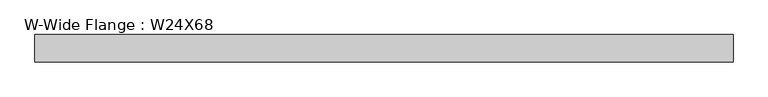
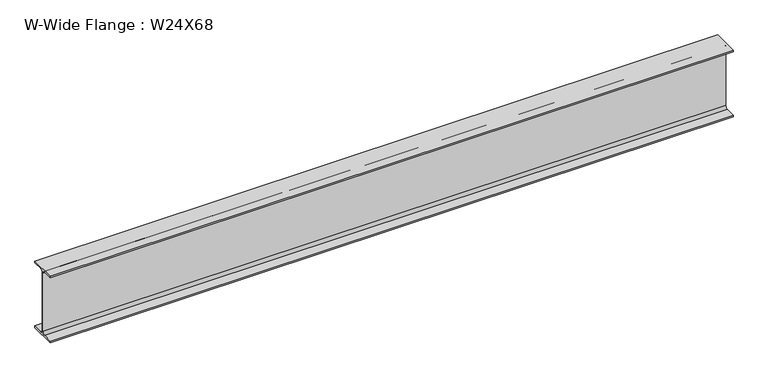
"""IFC4 building model written with IfcOpenShell, lengths in millimetres: beam geometry, W-Wide Flange : W24X68."""

from ifc_helpers import new_model, si_unit, point, frame, frame_2d, origin, place, context, project, spatial, polyline, circle_curve, trimmed, segment, composite_curve, outline, extrude, source, transform, mapped, element, save


def w_wide_flange_w24x68_1f356fc1(model_context):
    return source(origin(), model_context, "Body", "SweptSolid", [
        extrude(outline(composite_curve([segment(polyline([(113.919, -286.131), (113.919, -300.99), (-113.919, -300.99), (-113.919, -286.131), (-28.5115, -286.131)]), True, "CONTINUOUS"), segment(trimmed(circle_curve(frame_2d((-28.5115, -262.89)), 23.241), [point((-28.5115, -286.131))], [point((-5.2705, -262.89))], True, "CARTESIAN"), True, "CONTINUOUS"), segment(polyline([(-5.2705, -262.89), (-5.2705, 262.89)]), True, "CONTINUOUS"), segment(trimmed(circle_curve(frame_2d((-28.5115, 262.89)), 23.241), [point((-5.2705, 262.89))], [point((-28.5115, 286.131))], True, "CARTESIAN"), True, "CONTINUOUS"), segment(polyline([(-28.5115, 286.131), (-113.919, 286.131), (-113.919, 300.99), (113.919, 300.99), (113.919, 286.131), (28.5115, 286.131)]), True, "CONTINUOUS"), segment(trimmed(circle_curve(frame_2d((28.5115, 262.89)), 23.241), [point((28.5115, 286.131))], [point((5.2705, 262.89))], True, "CARTESIAN"), True, "CONTINUOUS"), segment(polyline([(5.2705, 262.89), (5.2705, -262.89)]), True, "CONTINUOUS"), segment(trimmed(circle_curve(frame_2d((28.5115, -262.89)), 23.241), [point((5.2705, -262.89))], [point((28.5115, -286.131))], True, "CARTESIAN"), True, "CONTINUOUS"), segment(polyline([(28.5115, -286.131), (113.919, -286.131)]), True, "CONTINUOUS")], self_intersect=False)), frame((-2921.381, 0.0, 0.0), z_axis=(1.0, 0.0, 0.0), x_axis=(0.0, 1.0, 0.0)), (0.0, 0.0, 1.0), 5842.762),
    ])


if __name__ == "__main__":
    model = new_model("IFC4")
    model_context = context("Model", 3, world=origin())
    ifc_project = project(units=[si_unit("LENGTHUNIT", "METRE", prefix="MILLI")], contexts=[model_context])
    site = spatial("IfcSite", under=ifc_project)
    building = spatial("IfcBuilding", under=site)
    placement = place(None, origin())
    w_wide_flange_w24x68_shape = w_wide_flange_w24x68_1f356fc1(model_context)
    element("IfcBeam", 1, ObjectType="W-Wide Flange : W24X68", at=placement, inside=building, context=model_context, shape_type="MappedRepresentation", body=[
        mapped(w_wide_flange_w24x68_shape, transform((0.0, 0.0, 0.0), x_axis=(1.0, 0.0, 0.0), y_axis=(0.0, 1.0, 0.0), z_axis=(0.0, 0.0, 1.0))),
    ])
    save(model, "model.ifc")
